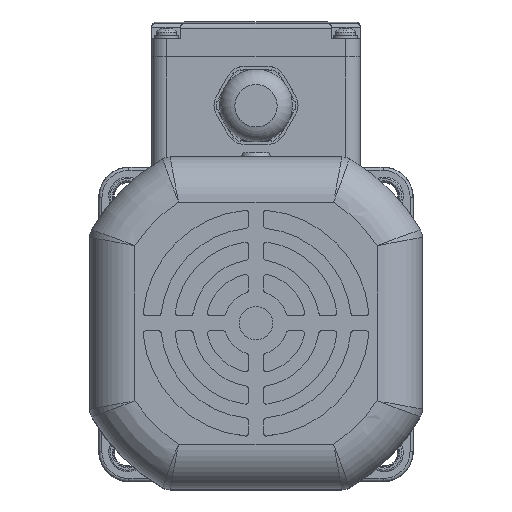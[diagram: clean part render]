
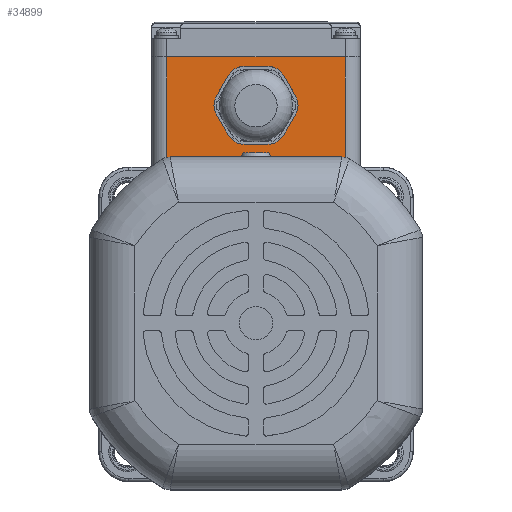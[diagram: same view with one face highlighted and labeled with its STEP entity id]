
A CAD part, top view. The second image highlights one B-rep face of the part: STEP entity #34899.
In plain terms, the highlighted planar face has unit normal (0, -0.009, 1) as drawn and (0, 0, 1) by its records, which use the part's own axes.
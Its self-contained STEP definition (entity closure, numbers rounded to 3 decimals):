
#1336 = ORIENTED_EDGE ( 'NONE', *, *, #48746, .F. ) ;
#1472 = EDGE_LOOP ( 'NONE', ( #1336, #35468, #22307, #8343 ) ) ;
#2262 = VERTEX_POINT ( 'NONE', #19260 ) ;
#3038 = EDGE_CURVE ( 'NONE', #47888, #32744, #44173, .T. ) ;
#6993 = EDGE_CURVE ( 'NONE', #32744, #2262, #17097, .T. ) ;
#7687 = FACE_OUTER_BOUND ( 'NONE', #1472, .T. ) ;
#8343 = ORIENTED_EDGE ( 'NONE', *, *, #6993, .T. ) ;
#8989 = DIRECTION ( 'NONE',  ( 1., 0., 0. ) ) ;
#9165 = DIRECTION ( 'NONE',  ( 0., 1., 0. ) ) ;
#10237 = DIRECTION ( 'NONE',  ( 0., -1., 0. ) ) ;
#10532 = VECTOR ( 'NONE', #9165, 1000. ) ;
#11439 = CARTESIAN_POINT ( 'NONE',  ( -34.5, 0., 37.5 ) ) ;
#12149 = VECTOR ( 'NONE', #8989, 1000. ) ;
#12559 = EDGE_CURVE ( 'NONE', #37552, #47888, #17669, .T. ) ;
#13132 = CARTESIAN_POINT ( 'NONE',  ( -29.5, 0., 37.5 ) ) ;
#13241 = DIRECTION ( 'NONE',  ( 1., 0., 0. ) ) ;
#13745 = CARTESIAN_POINT ( 'NONE',  ( 29.5, 0., 37.5 ) ) ;
#13818 = VECTOR ( 'NONE', #10237, 1000. ) ;
#14666 = PLANE ( 'NONE',  #22906 ) ;
#17097 = LINE ( 'NONE', #34916, #10532 ) ;
#17669 = LINE ( 'NONE', #29543, #13818 ) ;
#19260 = CARTESIAN_POINT ( 'NONE',  ( 29.5, 36., 37.5 ) ) ;
#21176 = CARTESIAN_POINT ( 'NONE',  ( -29.5, 36., 37.5 ) ) ;
#22307 = ORIENTED_EDGE ( 'NONE', *, *, #3038, .T. ) ;
#22906 = AXIS2_PLACEMENT_3D ( 'NONE', #11439, #29532, #29769 ) ;
#25113 = CARTESIAN_POINT ( 'NONE',  ( -34.5, 0., 37.5 ) ) ;
#27558 = CARTESIAN_POINT ( 'NONE',  ( -34.5, 36., 37.5 ) ) ;
#29419 = VECTOR ( 'NONE', #13241, 1000. ) ;
#29532 = DIRECTION ( 'NONE',  ( 0., 0., 1. ) ) ;
#29543 = CARTESIAN_POINT ( 'NONE',  ( -29.5, 0., 37.5 ) ) ;
#29769 = DIRECTION ( 'NONE',  ( 1., 0., 0. ) ) ;
#31518 = LINE ( 'NONE', #27558, #12149 ) ;
#32744 = VERTEX_POINT ( 'NONE', #13745 ) ;
#34899 = ADVANCED_FACE ( 'NONE', ( #7687 ), #14666, .T. ) ;
#34916 = CARTESIAN_POINT ( 'NONE',  ( 29.5, 36., 37.5 ) ) ;
#35468 = ORIENTED_EDGE ( 'NONE', *, *, #12559, .T. ) ;
#37552 = VERTEX_POINT ( 'NONE', #21176 ) ;
#44173 = LINE ( 'NONE', #25113, #29419 ) ;
#47888 = VERTEX_POINT ( 'NONE', #13132 ) ;
#48746 = EDGE_CURVE ( 'NONE', #37552, #2262, #31518, .T. ) ;
